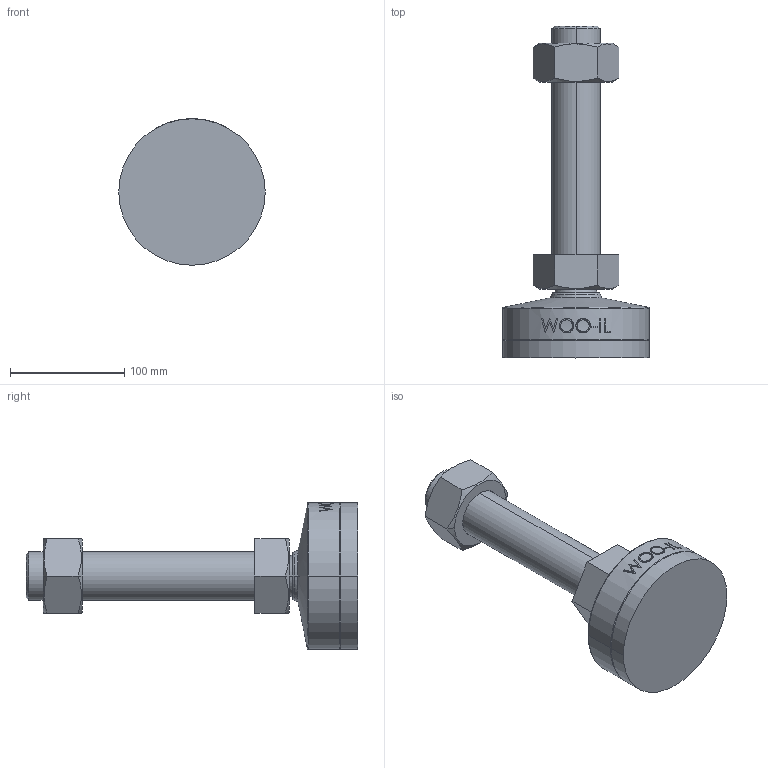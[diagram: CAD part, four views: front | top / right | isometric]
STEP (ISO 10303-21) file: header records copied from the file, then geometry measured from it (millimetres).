
FILE_DESCRIPTION (( 'STEP AP214' ), '1' );
FILE_NAME ('MFNR128-M42-200.step', '2021-02-22T09:05:13', ( '' ), ( '' ), 'SwSTEP 2.0', 'SolidWorks 2019', '' );
FILE_SCHEMA (( 'AUTOMOTIVE_DESIGN' ));
Length unit declared in the file: millimetre
Products named in the file (2): MFNR128-M42-200
Bounding box: 128 x 290 x 128 mm (x, y, z)
Volume: 1091257.4 mm3; surface area: 99058 mm2
Topology: 2 solids, 2 shells, 103 faces, 239 edges, 152 vertices
Faces by surface type: plane 47, cone 18, cylinder 16, bspline 16, torus 4, sphere 2
Entity records: 4657 total; most frequent: CARTESIAN_POINT 2378, ORIENTED_EDGE 478, DIRECTION 423, EDGE_CURVE 239, AXIS2_PLACEMENT_3D 161, VERTEX_POINT 152, EDGE_LOOP 117, ADVANCED_FACE 103
